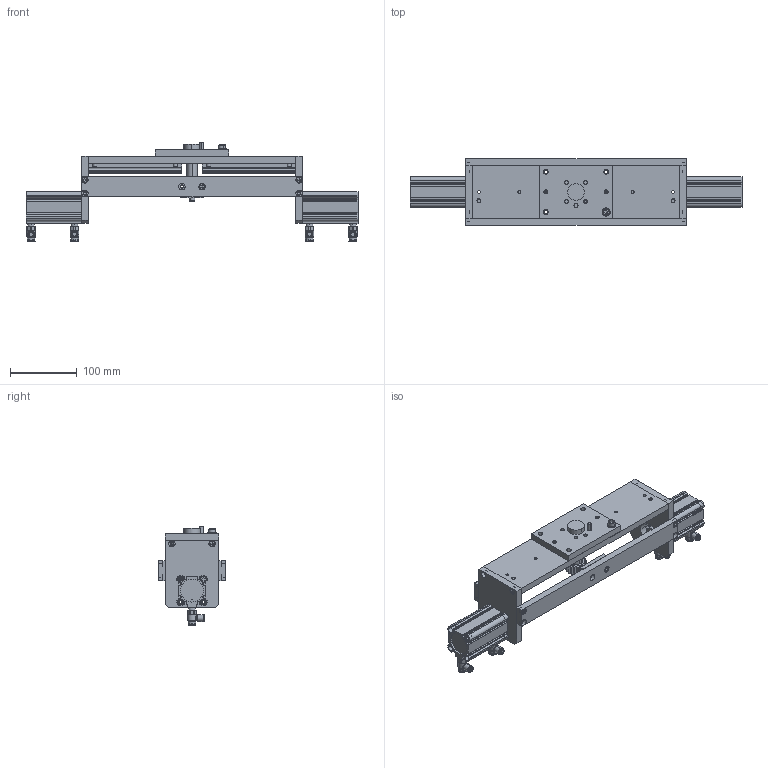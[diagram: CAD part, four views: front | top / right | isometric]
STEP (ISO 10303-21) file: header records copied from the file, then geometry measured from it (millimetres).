
FILE_DESCRIPTION (( 'STEP AP214' ), '1' );
FILE_NAME ('24_Gripper_double_solenoid_mechanism_Base.STEP', '2021-02-09T07:44:32', ( '' ), ( '' ), 'SwSTEP 2.0', 'SolidWorks 2017', '' );
FILE_SCHEMA (( 'AUTOMOTIVE_DESIGN' ));
Length unit declared in the file: millimetre
Products named in the file (29): 0578_005_MSTP6-15; 0578_308_CB5-85; 0578_207_Plate; 0578_206_Plate; 0578_Z_GEABD1.5-20-15_2; 24_Gripper_double_solenoid_mechanism_Base; 0578_205_Plate; 0578_008_FB6-16; _0578_SA01; 0578_006_MSTP6-20; 0578_102_Speed_controller; 0578_201_Plate; 0578_305_CB5-12; 0578_101_Air_Cylinder_32x50; 0578_Z_SVR28-160-LLC-RLC_1; 0578_Z_GEABD1.5-20-15_3; 0578_304_CB5-10; 0578_007_WSSB15-5-3; 0578_302_SLW6; 0578_003_GEABD1.5-20-15; 0578_306_CB5-16; 0578_309_CB6-20; 0578_301_SLW5; 0578_001_SVR28-160-LLC-RLC; 0578_209_Plate; 0578_Z_Air_Cylinder_32x50_1; 0578_Z_GEABD1.5-20-15_1; 0578_208_Shaft; 0578_Z_Air_Cylinder_32x50_2
Assembly tree (50 placements, depth 4):
  24_Gripper_double_solenoid_mechanism_Base
    _0578_SA01
      0578_001_SVR28-160-LLC-RLC  x2
        0578_Z_SVR28-160-LLC-RLC_1
      0578_003_GEABD1.5-20-15
        0578_Z_GEABD1.5-20-15_1
        0578_Z_GEABD1.5-20-15_2
        0578_Z_GEABD1.5-20-15_3
      0578_005_MSTP6-15  x4
      0578_006_MSTP6-20  x2
      0578_007_WSSB15-5-3
      0578_008_FB6-16
      0578_101_Air_Cylinder_32x50  x2
        0578_Z_Air_Cylinder_32x50_1
        0578_Z_Air_Cylinder_32x50_2
      0578_102_Speed_controller  x4
      0578_201_Plate  x2
      0578_205_Plate  x2
      0578_206_Plate
      0578_207_Plate  x2
      0578_208_Shaft
      0578_209_Plate
      0578_301_SLW5
      0578_302_SLW6
      0578_304_CB5-10  x2
      0578_305_CB5-12  x5
      0578_306_CB5-16  x5
      0578_308_CB5-85  x2
      0578_309_CB6-20
Bounding box: 496 x 100 x 149.03 mm (x, y, z)
Volume: 1055477.2 mm3; surface area: 325001.2 mm2
Topology: 47 solids, 47 shells, 1614 faces, 3841 edges, 2400 vertices
Faces by surface type: plane 703, cylinder 611, cone 238, bspline 62
Entity records: 34756 total; most frequent: CARTESIAN_POINT 5386, DIRECTION 4280, ORIENTED_EDGE 3764, EDGE_CURVE 1882, AXIS2_PLACEMENT_3D 1677, VERTEX_POINT 1193, EDGE_LOOP 1001, LINE 926
